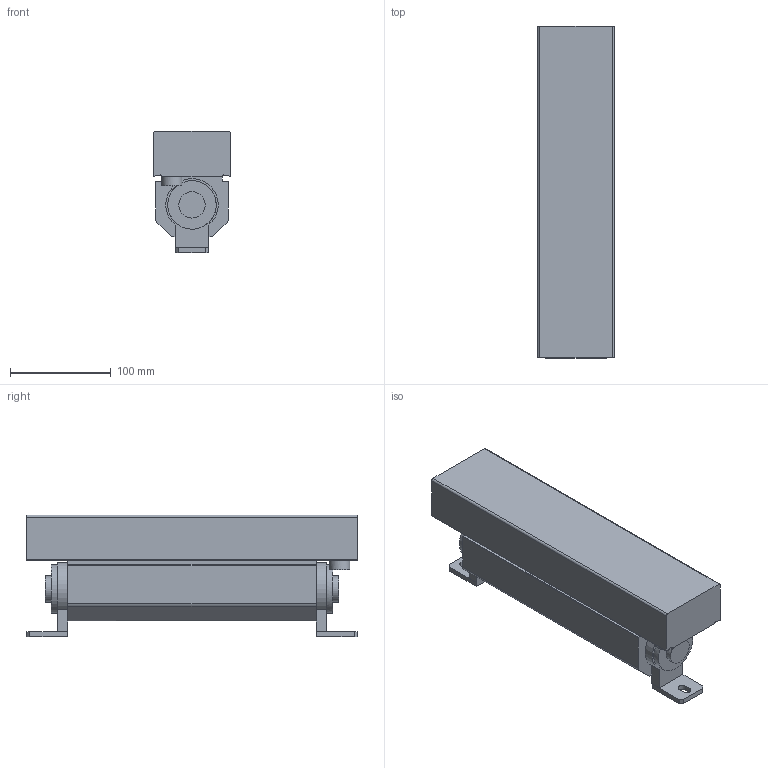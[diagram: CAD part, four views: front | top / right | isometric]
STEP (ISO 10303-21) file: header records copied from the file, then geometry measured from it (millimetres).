
FILE_DESCRIPTION(/* description */ ('Unknown'),/* implementation_level */ '2;1');
FILE_NAME(/* name */ 'Eminere 1 MC',/* time_stamp */ '2024-06-18T14:02:58+02:00',/* author */ ('Unknown'),/* organization */ ('Unknown'),/* preprocessor_version */ 'ST-DEVELOPER v19.4',/* originating_system */ 'Solid Edge',/* authorisation */ 'Unknown');
FILE_SCHEMA (('AUTOMOTIVE_DESIGN {1 0 10303 214 3 1 1}'));
Length unit declared in the file: millimetre
Products named in the file (1): Eminere 1 MC
Bounding box: 76 x 329 x 120.6 mm (x, y, z)
Volume: 2201730.4 mm3; surface area: 139242.7 mm2
Topology: 1 solids, 1 shells, 96 faces, 265 edges, 174 vertices
Faces by surface type: plane 55, cylinder 41
Full cylindrical faces by diameter (mm): 20 x1, 26 x2, 48 x2
Entity records: 3745 total; most frequent: CARTESIAN_POINT 554, DIRECTION 529, ORIENTED_EDGE 516, EDGE_CURVE 258, AXIS2_PLACEMENT_3D 183, VERTEX_POINT 172, LINE 163, VECTOR 163
